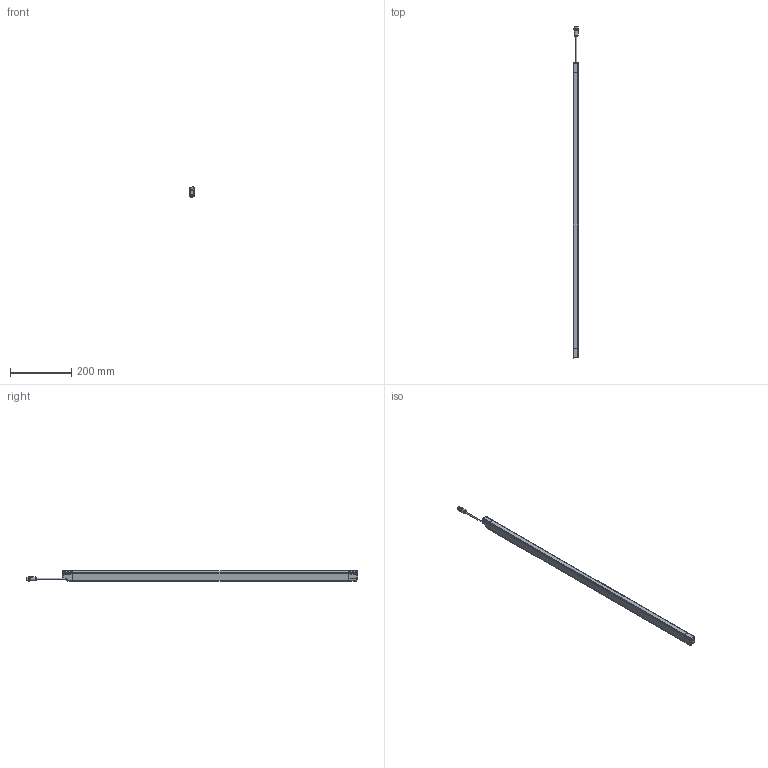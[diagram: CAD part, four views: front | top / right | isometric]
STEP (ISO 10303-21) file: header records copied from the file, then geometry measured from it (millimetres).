
FILE_DESCRIPTION(/* description */ (''),/* implementation_level */ '2;1');
FILE_NAME(/* name */ 'DSD-0647.stp',/* time_stamp */ '2015-02-23T17:46:14+01:00',/* author */ (''),/* organization */ (''),/* preprocessor_version */ 'ST-DEVELOPER v11',/* originating_system */ 'SIEMENS PLM Software NX 7.5',/* authorisation */ '');
FILE_SCHEMA (('AUTOMOTIVE_DESIGN { 1 0 10303 214 1 1 1 1 }'));
Length unit declared in the file: millimetre
Products named in the file (1): AP008169_00
Bounding box: 17.36 x 1080.24 x 33.46 mm (x, y, z)
Surface area: 115261.5 mm2 (no closed solid volume)
Topology: 0 solids, 42 shells, 1030 faces, 3633 edges, 2529 vertices
Faces by surface type: cylinder 386, plane 294, bspline 138, torus 108, sphere 65, cone 39
Full cylindrical faces by diameter (mm): 1 x5, 1.2 x2, 2.6 x6, 4 x1, 8.3 x1, 9.4 x1, 10.4 x1, 12 x1, 13 x1, 13.5 x1, 14.5 x2
Entity records: 46752 total; most frequent: CARTESIAN_POINT 16415, DIRECTION 6528, ORIENTED_EDGE 5566, EDGE_CURVE 3512, VERTEX_POINT 2494, AXIS2_PLACEMENT_3D 2465, LINE 1598, VECTOR 1598
